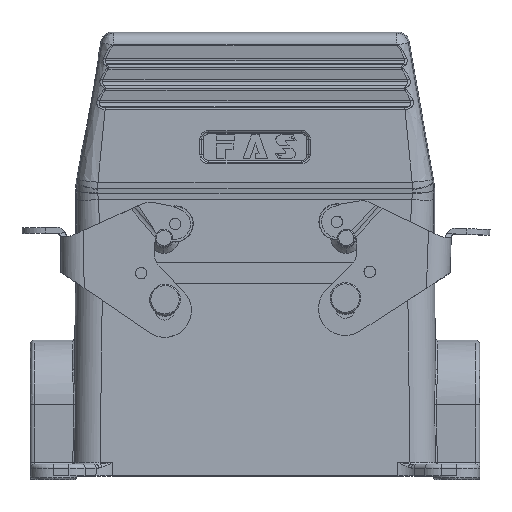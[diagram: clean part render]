
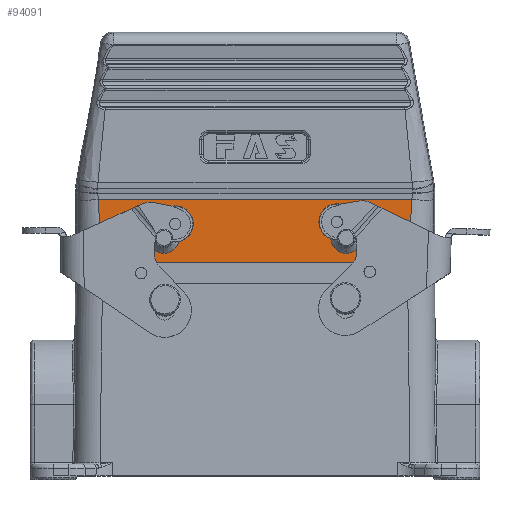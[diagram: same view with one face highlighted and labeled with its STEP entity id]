
A CAD part, top view. The second image highlights one B-rep face of the part: STEP entity #94091.
In plain terms, the highlighted planar face has unit normal (0, 0, 1) as drawn and (0, -1, 0) by its records, which use the part's own axes.
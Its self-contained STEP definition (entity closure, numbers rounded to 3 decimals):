
#1856 = VERTEX_POINT ( 'NONE', #7271 ) ;
#2332 = DIRECTION ( 'NONE',  ( 0., 0., 1. ) ) ;
#6437 = CARTESIAN_POINT ( 'NONE',  ( -40.183, -21.5, 4.437 ) ) ;
#7262 = CARTESIAN_POINT ( 'NONE',  ( -40.331, -21.5, 6.744 ) ) ;
#7271 = CARTESIAN_POINT ( 'NONE',  ( 23.75, -21.5, 10.3 ) ) ;
#7542 = VECTOR ( 'NONE', #117065, 1000. ) ;
#8212 = VERTEX_POINT ( 'NONE', #148310 ) ;
#10139 = AXIS2_PLACEMENT_3D ( 'NONE', #90699, #28197, #2332 ) ;
#15908 = CARTESIAN_POINT ( 'NONE',  ( -23.75, -21.5, 10.3 ) ) ;
#17281 = EDGE_CURVE ( 'NONE', #45396, #8212, #48023, .T. ) ;
#18429 = DIRECTION ( 'NONE',  ( 0., 1., 0. ) ) ;
#19758 = CARTESIAN_POINT ( 'NONE',  ( -40.44, -21.5, 8.473 ) ) ;
#20429 = B_SPLINE_CURVE_WITH_KNOTS ( 'NONE', 3,
 ( #45589, #135684, #20566, #134853, #58065, #85571, #149020, #71412, #108136, #21428, #123990, #70614, #121503, #123180, #19758, #34783, #32317, #33115, #120688, #122338, #160794, #72266, #7262, #69797, #31451, #6437, #22235, #108974, #159969, #136523, #57235, #73081, #109809, #84718 ),
 .UNSPECIFIED., .F., .F.,
 ( 4, 1, 1, 1, 1, 1, 2, 2, 1, 1, 1, 1, 1, 1, 1, 2, 2, 1, 1, 1, 1, 1, 1, 2, 2, 4 ),
 ( 0., 0.125, 0.188, 0.219, 0.234, 0.242, 0.246, 0.25, 0.375, 0.438, 0.469, 0.484, 0.492, 0.496, 0.498, 0.499, 0.5, 0.625, 0.688, 0.719, 0.734, 0.742, 0.746, 0.748, 0.75, 1. ),
 .UNSPECIFIED. ) ;
#20566 = CARTESIAN_POINT ( 'NONE',  ( -40.769, -21.5, 14.531 ) ) ;
#21428 = CARTESIAN_POINT ( 'NONE',  ( -40.656, -21.5, 12.233 ) ) ;
#22235 = CARTESIAN_POINT ( 'NONE',  ( -40.171, -21.5, 4.255 ) ) ;
#24119 = CARTESIAN_POINT ( 'NONE',  ( 40.845, -21.5, 16.289 ) ) ;
#24931 = CARTESIAN_POINT ( 'NONE',  ( 39.889, -21.5, 0. ) ) ;
#27373 = CARTESIAN_POINT ( 'NONE',  ( -73.25, -21.5, 0. ) ) ;
#28197 = DIRECTION ( 'NONE',  ( 0., 1., 0. ) ) ;
#28519 = CARTESIAN_POINT ( 'NONE',  ( -23.75, -21.5, 6.3 ) ) ;
#30184 = DIRECTION ( 'NONE',  ( 0., 0., 1. ) ) ;
#31451 = CARTESIAN_POINT ( 'NONE',  ( -40.206, -21.5, 4.795 ) ) ;
#32317 = CARTESIAN_POINT ( 'NONE',  ( -40.424, -21.5, 8.225 ) ) ;
#32395 = EDGE_CURVE ( 'NONE', #105355, #74347, #152622, .T. ) ;
#33076 = CARTESIAN_POINT ( 'NONE',  ( -73.25, -21.5, 16.289 ) ) ;
#33115 = CARTESIAN_POINT ( 'NONE',  ( -40.422, -21.5, 8.183 ) ) ;
#34783 = CARTESIAN_POINT ( 'NONE',  ( -40.429, -21.5, 8.308 ) ) ;
#34926 = VERTEX_POINT ( 'NONE', #102652 ) ;
#37603 = CARTESIAN_POINT ( 'NONE',  ( 39.889, -21.5, 0. ) ) ;
#43409 = VERTEX_POINT ( 'NONE', #96960 ) ;
#45396 = VERTEX_POINT ( 'NONE', #74708 ) ;
#45589 = CARTESIAN_POINT ( 'NONE',  ( -40.845, -21.5, 16.289 ) ) ;
#48023 = LINE ( 'NONE', #33076, #137880 ) ;
#51511 = FACE_OUTER_BOUND ( 'NONE', #132358, .T. ) ;
#52173 = B_SPLINE_CURVE_WITH_KNOTS ( 'NONE', 3,
 ( #24119, #139203, #136740, #150905, #24931 ),
 .UNSPECIFIED., .F., .F.,
 ( 4, 1, 4 ),
 ( 0., 0.652, 1. ),
 .UNSPECIFIED. ) ;
#53875 = ORIENTED_EDGE ( 'NONE', *, *, #66858, .T. ) ;
#54111 = DIRECTION ( 'NONE',  ( 0., 1., 0. ) ) ;
#57235 = CARTESIAN_POINT ( 'NONE',  ( -40.16, -21.5, 4.082 ) ) ;
#58065 = CARTESIAN_POINT ( 'NONE',  ( -40.684, -21.5, 12.782 ) ) ;
#58883 = DIRECTION ( 'NONE',  ( -1., 0., 0. ) ) ;
#60626 = AXIS2_PLACEMENT_3D ( 'NONE', #27373, #89854, #77388 ) ;
#61290 = AXIS2_PLACEMENT_3D ( 'NONE', #28519, #18429, #30184 ) ;
#61850 = DIRECTION ( 'NONE',  ( 0., 0., 1. ) ) ;
#62985 = ORIENTED_EDGE ( 'NONE', *, *, #17281, .T. ) ;
#64054 = PLANE ( 'NONE',  #60626 ) ;
#66858 = EDGE_CURVE ( 'NONE', #43409, #149014, #129623, .T. ) ;
#67288 = AXIS2_PLACEMENT_3D ( 'NONE', #117510, #54111, #104997 ) ;
#69797 = CARTESIAN_POINT ( 'NONE',  ( -40.25, -21.5, 5.482 ) ) ;
#70614 = CARTESIAN_POINT ( 'NONE',  ( -40.571, -21.5, 10.662 ) ) ;
#70743 = AXIS2_PLACEMENT_3D ( 'NONE', #150302, #125263, #61850 ) ;
#71412 = CARTESIAN_POINT ( 'NONE',  ( -40.659, -21.5, 12.295 ) ) ;
#72266 = CARTESIAN_POINT ( 'NONE',  ( -40.387, -21.5, 7.634 ) ) ;
#73081 = CARTESIAN_POINT ( 'NONE',  ( -40.06, -21.5, 2.546 ) ) ;
#73604 = ORIENTED_EDGE ( 'NONE', *, *, #151673, .F. ) ;
#74347 = VERTEX_POINT ( 'NONE', #15908 ) ;
#74708 = CARTESIAN_POINT ( 'NONE',  ( 40.845, -21.5, 16.289 ) ) ;
#75738 = FACE_BOUND ( 'NONE', #131079, .T. ) ;
#77388 = DIRECTION ( 'NONE',  ( 0., 0., -1. ) ) ;
#78174 = FACE_BOUND ( 'NONE', #81576, .T. ) ;
#78677 = CIRCLE ( 'NONE', #70743, 4. ) ;
#81576 = EDGE_LOOP ( 'NONE', ( #153342, #128715 ) ) ;
#84718 = CARTESIAN_POINT ( 'NONE',  ( -39.889, -21.5, 0. ) ) ;
#85571 = CARTESIAN_POINT ( 'NONE',  ( -40.669, -21.5, 12.497 ) ) ;
#89854 = DIRECTION ( 'NONE',  ( 0., -1., 0. ) ) ;
#90699 = CARTESIAN_POINT ( 'NONE',  ( 23.75, -21.5, 6.3 ) ) ;
#93786 = ORIENTED_EDGE ( 'NONE', *, *, #133300, .T. ) ;
#94091 = ADVANCED_FACE ( 'NONE', ( #51511, #78174, #75738 ), #64054, .T. ) ;
#96960 = CARTESIAN_POINT ( 'NONE',  ( -39.889, -21.5, 0. ) ) ;
#102652 = CARTESIAN_POINT ( 'NONE',  ( 23.75, -21.5, 2.3 ) ) ;
#104997 = DIRECTION ( 'NONE',  ( 0., 0., 1. ) ) ;
#105355 = VERTEX_POINT ( 'NONE', #109067 ) ;
#105368 = CARTESIAN_POINT ( 'NONE',  ( -13.25, -21.5, 0. ) ) ;
#108136 = CARTESIAN_POINT ( 'NONE',  ( -40.657, -21.5, 12.255 ) ) ;
#108880 = EDGE_CURVE ( 'NONE', #34926, #1856, #140618, .T. ) ;
#108974 = CARTESIAN_POINT ( 'NONE',  ( -40.165, -21.5, 4.163 ) ) ;
#109067 = CARTESIAN_POINT ( 'NONE',  ( -23.75, -21.5, 2.3 ) ) ;
#109809 = CARTESIAN_POINT ( 'NONE',  ( -39.97, -21.5, 1.189 ) ) ;
#114972 = ORIENTED_EDGE ( 'NONE', *, *, #32395, .T. ) ;
#117065 = DIRECTION ( 'NONE',  ( 1., 0., 0. ) ) ;
#117220 = CIRCLE ( 'NONE', #61290, 4. ) ;
#117510 = CARTESIAN_POINT ( 'NONE',  ( -23.75, -21.5, 6.3 ) ) ;
#120688 = CARTESIAN_POINT ( 'NONE',  ( -40.421, -21.5, 8.166 ) ) ;
#121503 = CARTESIAN_POINT ( 'NONE',  ( -40.498, -21.5, 9.438 ) ) ;
#122338 = CARTESIAN_POINT ( 'NONE',  ( -40.42, -21.5, 8.154 ) ) ;
#123180 = CARTESIAN_POINT ( 'NONE',  ( -40.46, -21.5, 8.799 ) ) ;
#123990 = CARTESIAN_POINT ( 'NONE',  ( -40.623, -21.5, 11.618 ) ) ;
#125263 = DIRECTION ( 'NONE',  ( 0., 1., 0. ) ) ;
#128715 = ORIENTED_EDGE ( 'NONE', *, *, #108880, .T. ) ;
#129575 = EDGE_CURVE ( 'NONE', #8212, #43409, #20429, .T. ) ;
#129623 = LINE ( 'NONE', #105368, #7542 ) ;
#131079 = EDGE_LOOP ( 'NONE', ( #93786, #114972 ) ) ;
#132358 = EDGE_LOOP ( 'NONE', ( #146587, #53875, #73604, #62985 ) ) ;
#133300 = EDGE_CURVE ( 'NONE', #74347, #105355, #117220, .T. ) ;
#134853 = CARTESIAN_POINT ( 'NONE',  ( -40.713, -21.5, 13.357 ) ) ;
#135684 = CARTESIAN_POINT ( 'NONE',  ( -40.815, -21.5, 15.576 ) ) ;
#136523 = CARTESIAN_POINT ( 'NONE',  ( -40.161, -21.5, 4.097 ) ) ;
#136740 = CARTESIAN_POINT ( 'NONE',  ( 40.377, -21.5, 7.314 ) ) ;
#137880 = VECTOR ( 'NONE', #58883, 1000. ) ;
#139203 = CARTESIAN_POINT ( 'NONE',  ( 40.706, -21.5, 12.744 ) ) ;
#140618 = CIRCLE ( 'NONE', #10139, 4. ) ;
#146587 = ORIENTED_EDGE ( 'NONE', *, *, #129575, .T. ) ;
#148310 = CARTESIAN_POINT ( 'NONE',  ( -40.845, -21.5, 16.289 ) ) ;
#149014 = VERTEX_POINT ( 'NONE', #37603 ) ;
#149020 = CARTESIAN_POINT ( 'NONE',  ( -40.662, -21.5, 12.356 ) ) ;
#150302 = CARTESIAN_POINT ( 'NONE',  ( 23.75, -21.5, 6.3 ) ) ;
#150905 = CARTESIAN_POINT ( 'NONE',  ( 40.012, -21.5, 1.888 ) ) ;
#151673 = EDGE_CURVE ( 'NONE', #45396, #149014, #52173, .T. ) ;
#152622 = CIRCLE ( 'NONE', #67288, 4. ) ;
#153342 = ORIENTED_EDGE ( 'NONE', *, *, #154747, .T. ) ;
#154747 = EDGE_CURVE ( 'NONE', #1856, #34926, #78677, .T. ) ;
#159969 = CARTESIAN_POINT ( 'NONE',  ( -40.163, -21.5, 4.123 ) ) ;
#160794 = CARTESIAN_POINT ( 'NONE',  ( -40.419, -21.5, 8.146 ) ) ;
